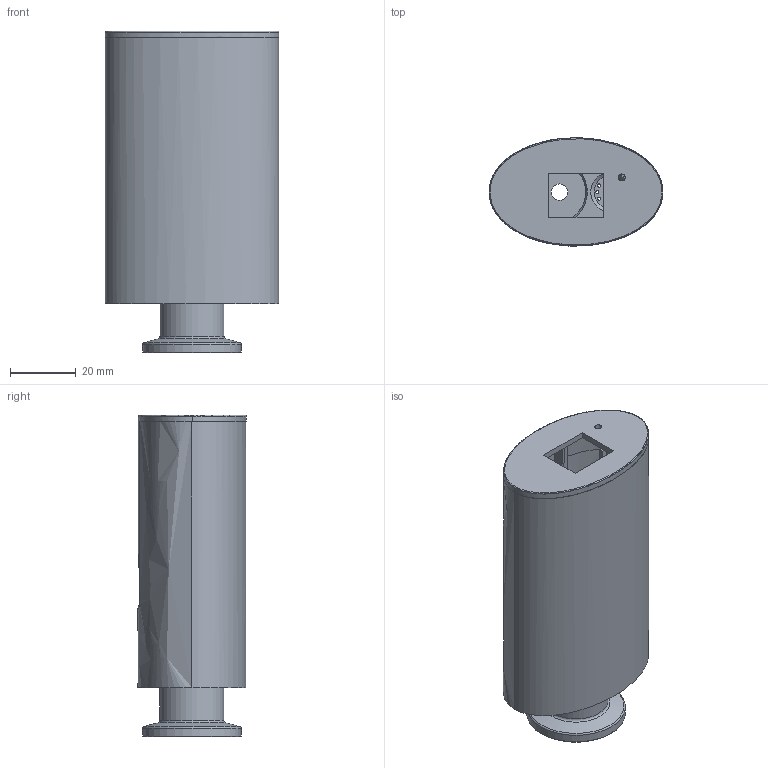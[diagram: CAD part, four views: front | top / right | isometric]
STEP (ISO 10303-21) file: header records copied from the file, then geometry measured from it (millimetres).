
FILE_DESCRIPTION (( 'STEP AP203' ), '1' );
FILE_NAME ('2YZV01.STEP', '2025-01-14T08:37:47', ( '' ), ( '' ), 'SwSTEP 2.0', 'SolidWorks 2021', '' );
FILE_SCHEMA (( 'CONFIG_CONTROL_DESIGN' ));
Length unit declared in the file: millimetre
Products named in the file (1): 2YZV01
Bounding box: 53 x 33.04 x 98 mm (x, y, z)
Volume: 40932.7 mm3; surface area: 40542.7 mm2
Topology: 3 solids, 3 shells, 290 faces, 782 edges, 519 vertices
Faces by surface type: plane 154, bspline 83, cylinder 44, cone 6, torus 3
Full cylindrical faces by diameter (mm): 1 x3, 1.61 x2, 2.05 x6, 2.8 x2, 3 x2, 4.5 x2, 5 x1, 10 x1, 16 x1, 17.2 x2, 18 x1, 18.9 x1, 19.5 x1, 30 x1
Entity records: 14107 total; most frequent: CARTESIAN_POINT 7964, ORIENTED_EDGE 1486, DIRECTION 800, EDGE_CURVE 743, VERTEX_POINT 515, B_SPLINE_CURVE_WITH_KNOTS 369, EDGE_LOOP 364, FACE_OUTER_BOUND 319
